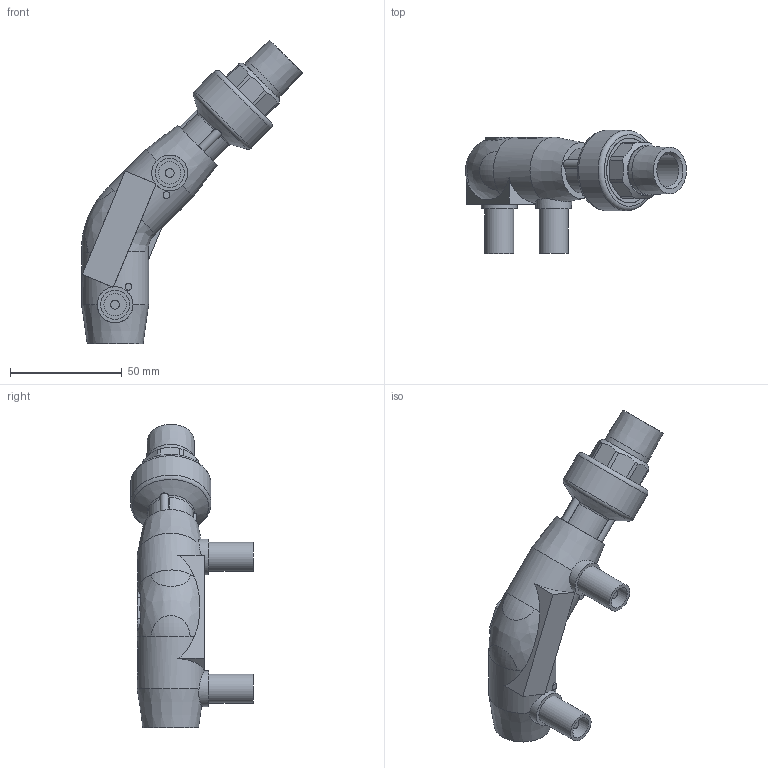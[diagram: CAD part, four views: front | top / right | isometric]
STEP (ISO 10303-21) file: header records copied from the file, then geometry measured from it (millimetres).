
FILE_DESCRIPTION(/* description */ ('Unknown'),/* implementation_level */ '2;1');
FILE_NAME(/* name */ 'GE4TMP020C',/* time_stamp */ '2021-03-02T15:58:46+01:00',/* author */ ('Unknown'),/* organization */ ('Unknown'),/* preprocessor_version */ 'ST-DEVELOPER v16.7',/* originating_system */ 'Solid Edge',/* authorisation */ 'Unknown');
FILE_SCHEMA (('AUTOMOTIVE_DESIGN {1 0 10303 214 3 1 1}'));
Length unit declared in the file: millimetre
Products named in the file (5): GE4TMP020C; GE4P020C; RTOMP020C; Parte PE 020; IOM020C
Assembly tree (4 placements, depth 3):
  GE4TMP020C
    GE4P020C
    RTOMP020C
      Parte PE 020
      IOM020C
Bounding box: 98.75 x 54.96 x 135.75 mm (x, y, z)
Volume: 72782.2 mm3; surface area: 37707 mm2
Topology: 3 solids, 3 shells, 243 faces, 588 edges, 381 vertices
Faces by surface type: plane 133, cylinder 72, bspline 17, torus 15, cone 6
Full cylindrical faces by diameter (mm): 3 x2, 4 x2, 10 x2, 13 x2, 14 x1, 14.5 x1, 16 x2, 17.5 x2, 18.5 x2, 20 x3, 21.5 x2, 21.7 x1, 25 x4, 26.4 x2, 29 x8, 36 x1
Entity records: 8489 total; most frequent: CARTESIAN_POINT 2474, DIRECTION 1126, ORIENTED_EDGE 1056, EDGE_CURVE 528, AXIS2_PLACEMENT_3D 457, VERTEX_POINT 367, EDGE_LOOP 325, FACE_BOUND 325
